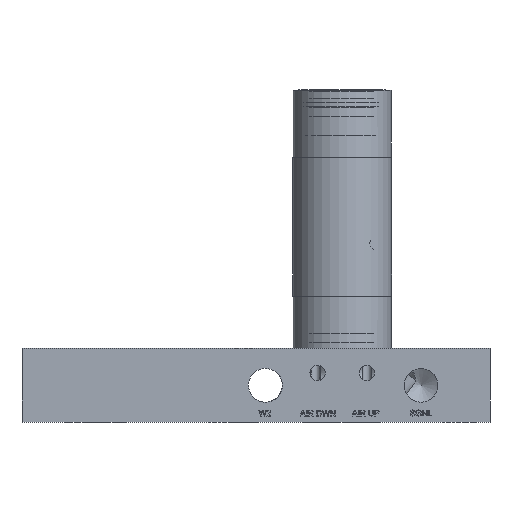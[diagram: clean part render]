
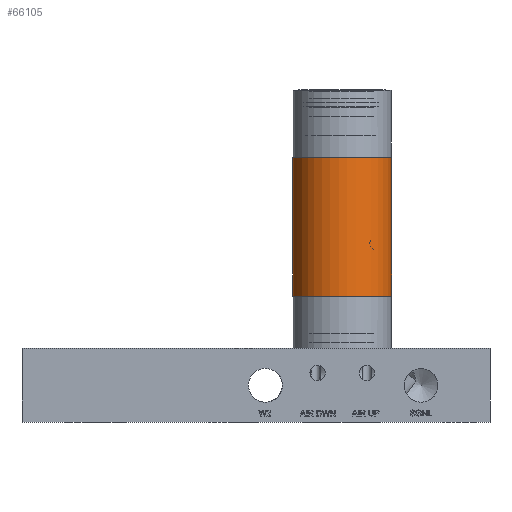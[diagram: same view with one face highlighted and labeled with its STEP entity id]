
A CAD part, front view. The second image highlights one B-rep face of the part: STEP entity #66105.
In plain terms, the highlighted cylindrical face has radius 12.827 mm (diameter 25.654 mm), a full revolution.
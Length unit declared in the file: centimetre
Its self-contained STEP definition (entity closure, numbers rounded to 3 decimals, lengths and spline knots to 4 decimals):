
#4107=CYLINDRICAL_SURFACE('',#72089,1.2827);
#6962=FACE_OUTER_BOUND('',#11087,.T.);
#11087=EDGE_LOOP('',(#51901,#51902,#51903,#51904));
#19639=CIRCLE('',#72086,1.2827);
#19640=CIRCLE('',#72088,1.2827);
#20445=LINE('',#172924,#22633);
#22633=VECTOR('',#82776,1.2827);
#27953=VERTEX_POINT('',#172918);
#27954=VERTEX_POINT('',#172921);
#36383=EDGE_CURVE('',#27953,#27953,#19639,.T.);
#36384=EDGE_CURVE('',#27954,#27954,#19640,.T.);
#36385=EDGE_CURVE('',#27954,#27953,#20445,.T.);
#51901=ORIENTED_EDGE('',*,*,#36384,.T.);
#51902=ORIENTED_EDGE('',*,*,#36385,.T.);
#51903=ORIENTED_EDGE('',*,*,#36383,.F.);
#51904=ORIENTED_EDGE('',*,*,#36385,.F.);
#66105=ADVANCED_FACE('',(#6962),#4107,.T.);
#72086=AXIS2_PLACEMENT_3D('',#172919,#82768,#82769);
#72088=AXIS2_PLACEMENT_3D('',#172922,#82772,#82773);
#72089=AXIS2_PLACEMENT_3D('',#172923,#82774,#82775);
#82768=DIRECTION('center_axis',(0.,0.,
-1.));
#82769=DIRECTION('ref_axis',(0.97,-0.245,0.));
#82772=DIRECTION('center_axis',(0.,0.,
-1.));
#82773=DIRECTION('ref_axis',(0.97,-0.245,0.));
#82774=DIRECTION('center_axis',(0.,0.,
1.));
#82775=DIRECTION('ref_axis',(0.97,-0.245,0.));
#82776=DIRECTION('',(0.,0.,-1.));
#172918=CARTESIAN_POINT('',(-1.2437,0.3139,3.2513));
#172919=CARTESIAN_POINT('Origin',(0.,0.,
3.2513));
#172921=CARTESIAN_POINT('',(-1.2437,0.3139,6.8327));
#172922=CARTESIAN_POINT('Origin',(0.,0.,
6.8327));
#172923=CARTESIAN_POINT('Origin',(0.,0.,
3.2513));
#172924=CARTESIAN_POINT('',(-1.2437,0.3139,3.2513));
